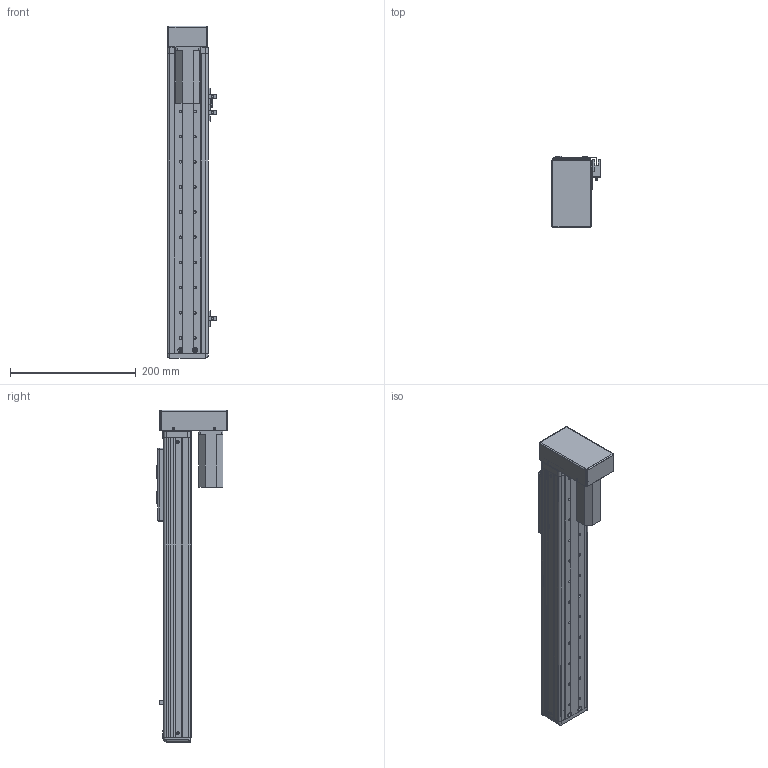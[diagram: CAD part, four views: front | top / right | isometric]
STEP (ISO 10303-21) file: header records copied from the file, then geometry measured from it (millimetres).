
FILE_DESCRIPTION (( 'STEP AP203' ), '1' );
FILE_NAME ('RY60F-L1210-300-BK.SLDASM_300.step', '2021-03-02T06:47:02', ( '盈信电脑' ), ( '东莞市道滘镇水果街19号' ), 'SwSTEP 2.0', 'SolidWorks 2012', '' );
FILE_SCHEMA (( 'CONFIG_CONTROL_DESIGN' ));
Length unit declared in the file: millimetre
Products named in the file (17): RY60F-狟殏萇儂欶(100W); RY60F-狟殏萇儂假蚾啣(100W PCD45 M3); RY60F-L1210-300-BK.SLDASM_300; 俋噤12酗38滅袉蝶; 俋噤12酗29滅袉蝶; 侂狟100W; RY60F-转折电机端丝杆安装座; RY60F-300-蛌殏滅鳥詩え-BK; RY50F-300-MR15W蛌殏絳寢-BK; 覜茼ん672; RY60F-L1210-300-BK蛌殏俋褲; RY50-60詩湍揤啣; RY60F-祥凄詩滅鳥裔; RY60F-嫖萇羲壽結え; RY60F-浮动端丝杆支撑座; RY60F-滅鳥詩え盓殤; RY60F-臏賑輸
Assembly tree (20 placements, depth 2):
  RY60F-L1210-300-BK.SLDASM_300
    RY60F-臏賑輸
    RY60F-浮动端丝杆支撑座
    RY60F-滅鳥詩え盓殤
    RY60F-嫖萇羲壽結え
    RY50-60詩湍揤啣  x2
    RY60F-祥凄詩滅鳥裔
    RY60F-L1210-300-BK蛌殏俋褲  x2
    覜茼ん672  x3
    RY60F-300-蛌殏滅鳥詩え-BK
    RY50F-300-MR15W蛌殏絳寢-BK
    俋噤12酗29滅袉蝶
    俋噤12酗38滅袉蝶
    侂狟100W
    RY60F-转折电机端丝杆安装座
    RY60F-狟殏萇儂假蚾啣(100W PCD45 M3)
    RY60F-狟殏萇儂欶(100W)
Bounding box: 78.7 x 114 x 528 mm (x, y, z)
Volume: 610822.4 mm3; surface area: 399195.8 mm2
Topology: 20 solids, 21 shells, 1049 faces, 2854 edges, 1807 vertices
Faces by surface type: cylinder 474, plane 463, cone 94, bspline 18
Entity records: 31970 total; most frequent: CARTESIAN_POINT 6194, DIRECTION 5069, ORIENTED_EDGE 4872, EDGE_CURVE 2436, AXIS2_PLACEMENT_3D 1802, VERTEX_POINT 1583, VECTOR 1465, LINE 1465
